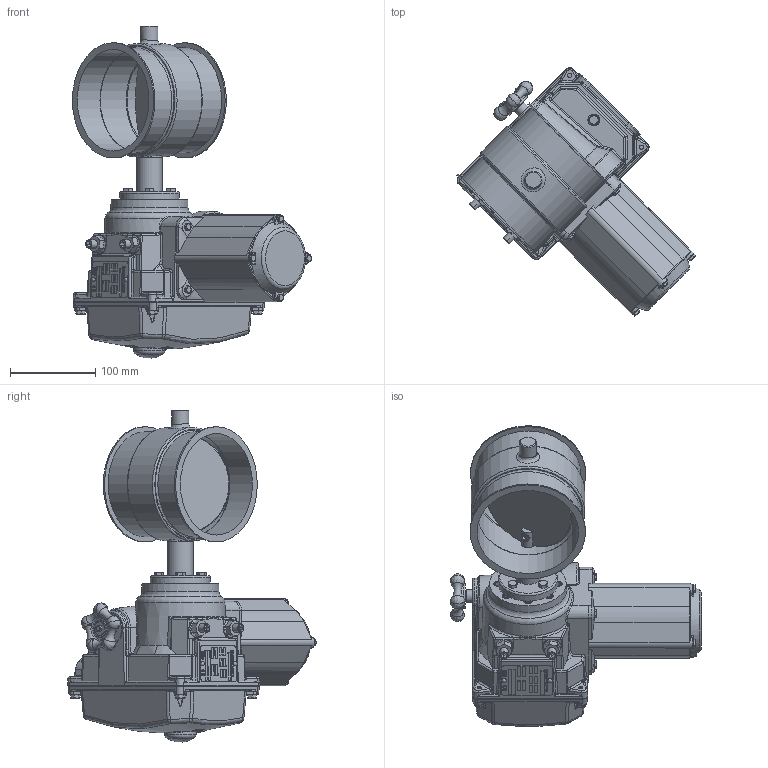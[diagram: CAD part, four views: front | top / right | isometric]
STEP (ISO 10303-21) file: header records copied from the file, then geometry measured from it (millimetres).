
FILE_DESCRIPTION((''),'2;1');
FILE_NAME('U:\Wolfgang\Marcel-3D\fertig\Kapitel 8\1221216.stp','2011-05-03T15:03:36',('TK1'),(''),'Autodesk Inventor 2010','Autodesk Inventor 2010','');
FILE_SCHEMA(('AUTOMOTIVE_DESIGN { 1 0 10303 214 1 1 1 1 }'));
Length unit declared in the file: millimetre
Products named in the file (9): 1221216; Bolzen D15; Scheibe120b; DIN 6912 M6 x 16; 1221210-1; D15 Antrieb Le-4; BuchseD15 70-50; DIN EN ISO 4018 M6x25; LEB45cc
Assembly tree (13 placements, depth 3):
  1221216
    Bolzen D15  x2
    Scheibe120b
    DIN 6912 M6 x 16  x2
    1221210-1
    D15 Antrieb Le-4
      BuchseD15 70-50
      DIN EN ISO 4018 M6x25  x4
      LEB45cc
Bounding box: 280.05 x 291.02 x 388.82 mm (x, y, z)
Volume: 4302787.1 mm3; surface area: 424621.2 mm2
Topology: 12 solids, 12 shells, 1498 faces, 3763 edges, 2360 vertices
Faces by surface type: plane 754, cylinder 291, bspline 241, torus 86, cone 81, sphere 45
Full cylindrical faces by diameter (mm): 3 x2, 5 x4, 5.1 x8, 6 x14, 6.9 x8, 10 x6, 15 x7, 15.5 x1, 16 x1, 17 x1, 18.6 x2, 20 x1, 24 x1, 30 x2, 35 x1, 42 x1, 70 x1, 119 x3, 120 x1, 123 x2, 128 x1, 129 x1, 133 x1, 135 x2
Entity records: 51853 total; most frequent: CARTESIAN_POINT 19463, ORIENTED_EDGE 6654, DIRECTION 5850, EDGE_CURVE 3327, VERTEX_POINT 2196, AXIS2_PLACEMENT_3D 2064, VECTOR 1722, LINE 1722
